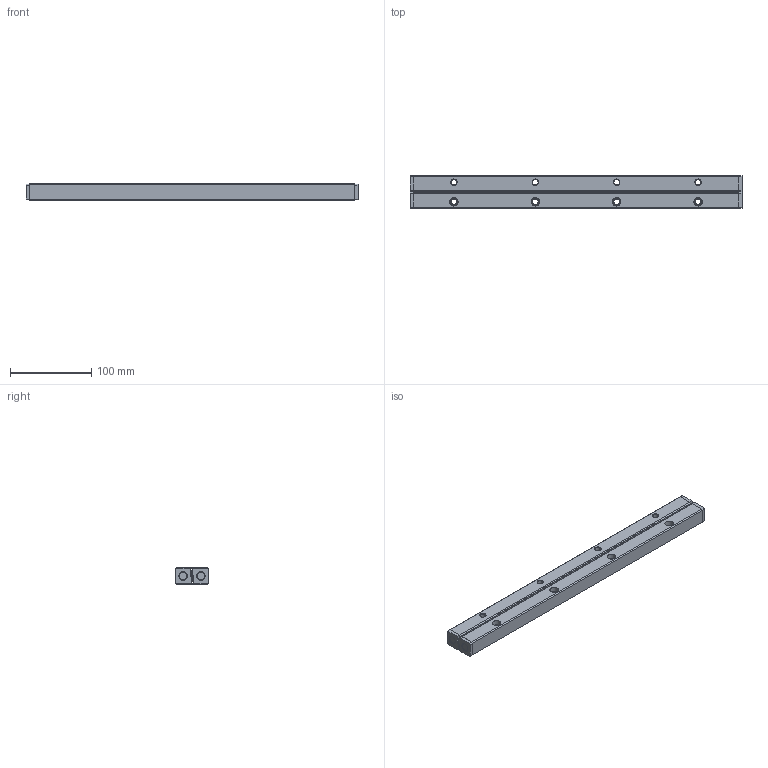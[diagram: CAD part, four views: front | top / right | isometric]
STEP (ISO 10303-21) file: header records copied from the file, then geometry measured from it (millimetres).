
FILE_DESCRIPTION(/* description */ ('Unknown'),/* implementation_level */ '2;1');
FILE_NAME(/* name */ 'VR9-400x20Z',/* time_stamp */ '2025-06-12T09:18:47+08:00',/* author */ ('Unknown'),/* organization */ ('Unknown'),/* preprocessor_version */ 'ST-DEVELOPER v18.102',/* originating_system */ 'Solid Edge',/* authorisation */ 'Unknown');
FILE_SCHEMA (('AUTOMOTIVE_DESIGN {1 0 10303 214 3 1 1}'));
Length unit declared in the file: millimetre
Products named in the file (3): VR9-400x20Z; VR9-400_20Z Roller guide; VR9-400_20Z Roller cage
Assembly tree (3 placements, depth 2):
  VR9-400x20Z
    VR9-400_20Z Roller guide  x2
    VR9-400_20Z Roller cage
Bounding box: 408 x 40 x 20 mm (x, y, z)
Volume: 291865.4 mm3; surface area: 85551.9 mm2
Topology: 3 solids, 3 shells, 348 faces, 926 edges, 596 vertices
Faces by surface type: plane 252, cone 60, cylinder 36
Full cylindrical faces by diameter (mm): 6.8 x8, 9 x20, 10.5 x8
Entity records: 8900 total; most frequent: CARTESIAN_POINT 1506, DIRECTION 1481, ORIENTED_EDGE 1414, EDGE_CURVE 707, LINE 519, VECTOR 519, VERTEX_POINT 506, AXIS2_PLACEMENT_3D 481
